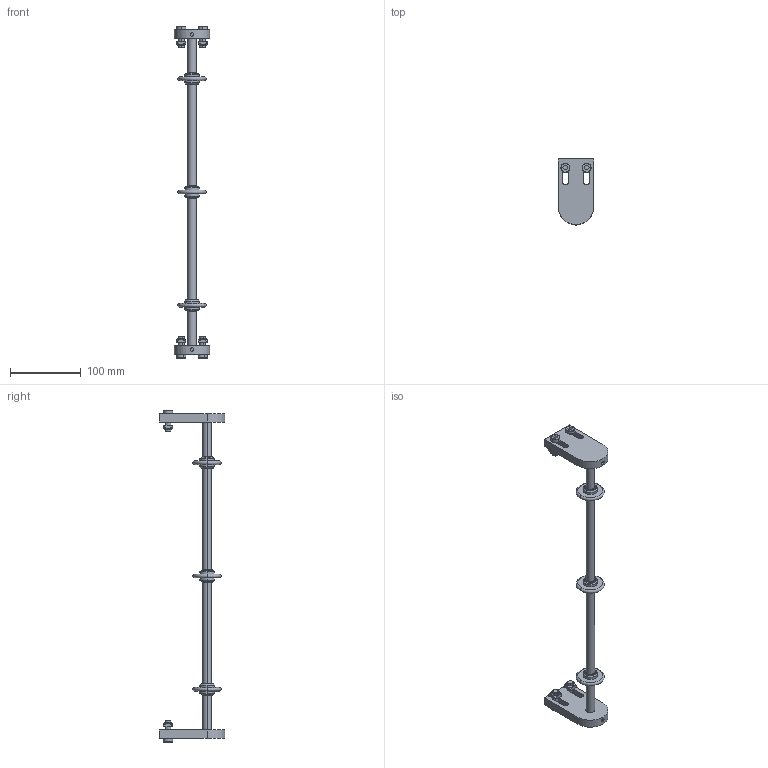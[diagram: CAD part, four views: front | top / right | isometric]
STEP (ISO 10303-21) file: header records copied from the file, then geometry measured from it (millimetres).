
FILE_DESCRIPTION (( 'STEP AP203' ), '1' );
FILE_NAME ('084.095.KSW.400.STEP', '2019-07-30T08:42:38', ( '' ), ( '' ), 'SwSTEP 2.0', 'SolidWorks 2018', '' );
FILE_SCHEMA (( 'CONFIG_CONTROL_DESIGN' ));
Length unit declared in the file: millimetre
Products named in the file (8): 084.302.000 DADI ALUSIC 13x13-1_084.302.004; 084.301.000 VITI ALUSIC_084.301.004; 084.095.KSW.400; 084.802.041; circlip for shafts normal_din_PreviewCfg; 084.802.030; GRANI A PUNTA PIATTA UNI 5923_M6x16 UNI 5923; Parte359^084.095.KSW.400
Assembly tree (22 placements, depth 2):
  084.095.KSW.400
    Parte359^084.095.KSW.400
    084.802.041  x3
    084.802.030  x2
    circlip for shafts normal_din_PreviewCfg  x6
    GRANI A PUNTA PIATTA UNI 5923_M6x16 UNI 5923  x2
    084.301.000 VITI ALUSIC_084.301.004  x4
    084.302.000 DADI ALUSIC 13x13-1_084.302.004  x4
Bounding box: 50 x 92.5 x 469 mm (x, y, z)
Volume: 174648.7 mm3; surface area: 64167.1 mm2
Topology: 22 solids, 22 shells, 420 faces, 1030 edges, 672 vertices
Faces by surface type: cylinder 178, plane 152, torus 38, cone 36, bspline 16
Entity records: 5214 total; most frequent: CARTESIAN_POINT 1121, DIRECTION 636, ORIENTED_EDGE 560, EDGE_CURVE 280, AXIS2_PLACEMENT_3D 251, VERTEX_POINT 182, EDGE_LOOP 138, VECTOR 134
